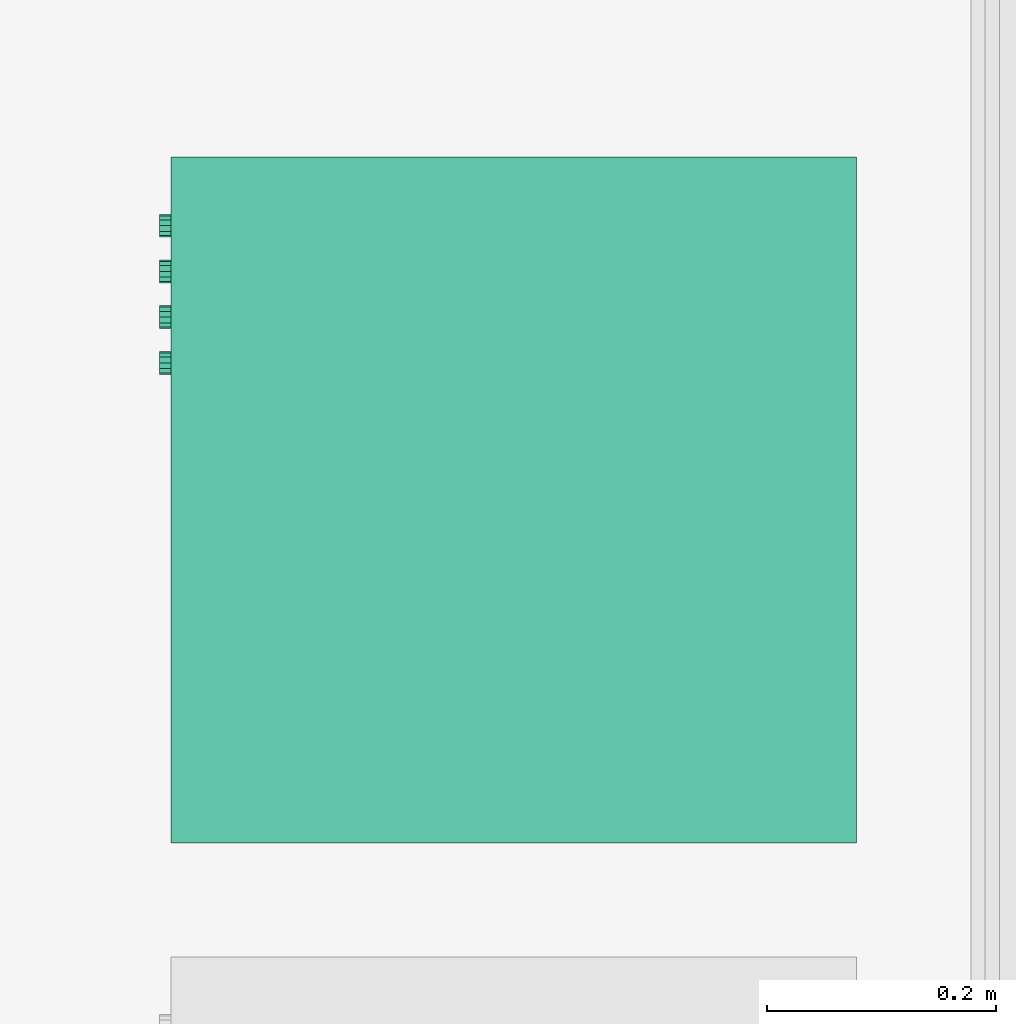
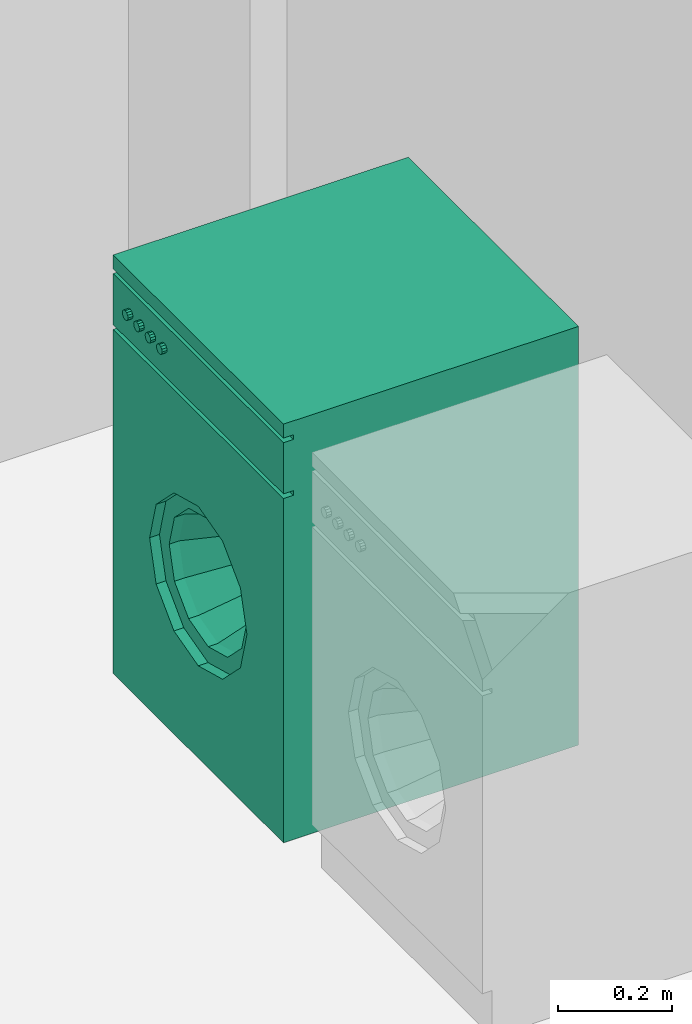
# One storey, part 97 of 109: 1 flow terminal.
"""IFC2X3 building model written with IfcOpenShell, lengths in millimetres."""

import ifcopenshell
import ifcopenshell.guid

model = None  # the IFC model being written
_history = None  # IfcOwnerHistory: only IFC2X3 demands one
_inside = {}  # id of a spatial element -> (the spatial element, [elements in it])
_under = {}  # id of a project, library or spatial element -> (it, [spatial elements below it])
_declared = {}  # id of a project -> (the project, [libraries it declares])
_typed = {}  # id of a type object -> (the type object, [elements of that type])
_made_of = {}  # id of a material, layer set ... -> (it, [elements and type objects made of it])


def new_model(schema):
    """Start an empty IFC model of exactly this schema.

    Asked for "IFC4X3", IfcOpenShell would pick the latest addendum, in which some entities
    have other attributes; the version numbers below select the first issue.
    IFC2X3 requires an IfcOwnerHistory on every rooted entity: one is made here for all.
    """
    global model, _history
    if schema == "IFC4X3":
        model = ifcopenshell.file(schema_version=(4, 3, 0, 0))
    else:
        model = ifcopenshell.file(schema=schema)
    _inside.clear()
    _under.clear()
    _declared.clear()
    _typed.clear()
    _made_of.clear()
    _history = None
    if model.schema == "IFC2X3":
        org = make("IfcOrganization", Name="unknown")
        user = make(
            "IfcPersonAndOrganization",
            ThePerson=make("IfcPerson", FamilyName="unknown"),
            TheOrganization=org,
        )
        app = make(
            "IfcApplication",
            ApplicationDeveloper=org,
            Version="unknown",
            ApplicationFullName="unknown",
            ApplicationIdentifier="unknown",
        )
        _history = make(
            "IfcOwnerHistory",
            OwningUser=user,
            OwningApplication=app,
            ChangeAction="ADDED",
            CreationDate=0,
        )
    return model


def make(cls, **values):
    """One entity of the class cls with the attributes given. An attribute that is None is left unset."""
    return model.create_entity(
        cls, **{name: value for name, value in values.items() if value is not None}
    )


def entity(cls, *values):
    """Any entity or typed value of the class cls, its attributes in the order of the schema. None: left unset."""
    e = model.create_entity(cls)
    for i, value in enumerate(values):
        if value is not None:
            e[i] = value
    return e


def rooted(cls, **values):
    """An entity with a GlobalId (a new one), such as an element, a storey or a relation."""
    return make(cls, GlobalId=ifcopenshell.guid.new(), OwnerHistory=_history, **values)


def si_unit(unit_type, name, prefix=None):
    """IfcSIUnit, for example si_unit("LENGTHUNIT", "METRE", prefix="MILLI")."""
    return make("IfcSIUnit", UnitType=unit_type, Prefix=prefix, Name=name)


def converted_unit(unit_type, name, factor, base, dimensions=None, offset=None):
    """IfcConversionBasedUnit, such as the inch: factor (a typed value) times the base unit."""
    return make(
        "IfcConversionBasedUnit"
        if offset is None
        else "IfcConversionBasedUnitWithOffset",
        ConversionOffset=offset,
        Dimensions=None
        if dimensions is None
        else entity("IfcDimensionalExponents", *dimensions),
        UnitType=unit_type,
        Name=name,
        ConversionFactor=make(
            "IfcMeasureWithUnit", ValueComponent=factor, UnitComponent=base
        ),
    )


def derived_unit(unit_type, elements):
    """IfcDerivedUnit: a product of units, each with its exponent."""
    return make(
        "IfcDerivedUnit",
        Elements=[
            make("IfcDerivedUnitElement", Unit=unit, Exponent=power)
            for unit, power in elements
        ],
        UnitType=unit_type,
    )


def money_unit(currency):
    """IfcMonetaryUnit."""
    return make("IfcMonetaryUnit", Currency=currency)


def assignment(units):
    """IfcUnitAssignment: the units of a project."""
    return None if units is None else make("IfcUnitAssignment", Units=units)


def point(xyz):
    """IfcCartesianPoint."""
    return None if xyz is None else make("IfcCartesianPoint", Coordinates=xyz)


def direction(xyz):
    """IfcDirection."""
    return None if xyz is None else make("IfcDirection", DirectionRatios=xyz)


def frame(location, z_axis=None, x_axis=None):
    """IfcAxis2Placement3D, a coordinate frame: its origin and axes. An axis left out is left unset."""
    return make(
        "IfcAxis2Placement3D",
        Location=point(location),
        Axis=direction(z_axis),
        RefDirection=direction(x_axis),
    )


def origin_with_axes():
    """The frame at (0, 0, 0) with the z axis (0, 0, 1) and the x axis (1, 0, 0) written out."""
    return frame((0.0, 0.0, 0.0), z_axis=(0.0, 0.0, 1.0), x_axis=(1.0, 0.0, 0.0))


def place(relative_to, where):
    """IfcLocalPlacement: puts the frame where relative to a parent placement (None: the world)."""
    return make(
        "IfcLocalPlacement", PlacementRelTo=relative_to, RelativePlacement=where
    )


def context(
    kind, dimensions, precision=None, world=None, true_north=None, identifier=None
):
    """IfcGeometricRepresentationContext, for example the 3D "Model" context."""
    return make(
        "IfcGeometricRepresentationContext",
        ContextIdentifier=identifier,
        ContextType=kind,
        CoordinateSpaceDimension=dimensions,
        Precision=precision,
        WorldCoordinateSystem=world,
        TrueNorth=true_north,
    )


def subcontext(parent, identifier, kind, view, scale=None):
    """IfcGeometricRepresentationSubContext, for example "Body" below "Model"."""
    return make(
        "IfcGeometricRepresentationSubContext",
        ContextIdentifier=identifier,
        ContextType=kind,
        ParentContext=parent,
        TargetScale=scale,
        TargetView=view,
    )


def project(units=None, contexts=None):
    """IfcProject with its units and contexts."""
    return rooted(
        "IfcProject",
        Name="project",
        RepresentationContexts=contexts,
        UnitsInContext=assignment(units),
    )


def spatial(cls, under=None, at=None, **own):
    """A site, building, storey or space (cls), placed at a placement, below another one or the project."""
    s = rooted(cls, ObjectPlacement=at, **own)
    if under is not None:
        _under.setdefault(under.id(), (under, []))[1].append(s)
    return s


def faces_of(points, faces, orient=None, outer=None):
    """IfcFace entities. A face is a list of loops; a loop is a list of indices into points, from 0.

    orient and outer hold one flag for each loop. By default every Orientation is true, the
    first loop of a face is its IfcFaceOuterBound and the others are IfcFaceBound.
    """
    made = []
    for i, loops in enumerate(faces):
        bounds = []
        for j, loop in enumerate(loops):
            is_outer = j == 0 if outer is None else outer[i][j]
            bounds.append(
                make(
                    "IfcFaceOuterBound" if is_outer else "IfcFaceBound",
                    Bound=make("IfcPolyLoop", Polygon=[points[k] for k in loop]),
                    Orientation=True if orient is None else orient[i][j],
                )
            )
        made.append(make("IfcFace", Bounds=bounds))
    return made


def open_shell(faces, orient=None, outer=None):
    """The faces of one IfcOpenShell. surface_model builds it on its shared points."""
    return ("IfcOpenShell", faces, orient, outer)


def faceted_brep(points, faces, orient=None, outer=None, voids=None):
    """IfcFacetedBrep: a solid bounded by flat faces; with voids (closed shells), ...WithVoids."""
    shared = [point(p) for p in points]
    hull = make("IfcClosedShell", CfsFaces=faces_of(shared, faces, orient, outer))
    if voids is None:
        return make("IfcFacetedBrep", Outer=hull)
    return make(
        "IfcFacetedBrepWithVoids",
        Outer=hull,
        Voids=[
            make(cls, CfsFaces=faces_of(shared, fs, o, b)) for cls, fs, o, b in voids
        ],
    )


def surface_model(cls, points, shells):
    """IfcFaceBasedSurfaceModel or IfcShellBasedSurfaceModel (cls): surfaces that need not close."""
    shared = [point(p) for p in points]
    made = [make(c, CfsFaces=faces_of(shared, fs, o, b)) for c, fs, o, b in shells]
    if cls == "IfcFaceBasedSurfaceModel":
        return make(cls, FbsmFaces=made)
    return make(cls, SbsmBoundary=made)


def shape(context_of_items, identifier, shape_type, items):
    """IfcShapeRepresentation: the items that make up one representation, for example the "Body"."""
    return make(
        "IfcShapeRepresentation",
        ContextOfItems=context_of_items,
        RepresentationIdentifier=identifier,
        RepresentationType=shape_type,
        Items=items,
    )


def made_of(thing, what):
    """Note that an element or type object is made of a material, layer set ...; save() writes the relation."""
    if what is not None:
        _made_of.setdefault(what.id(), (what, []))[1].append(thing)
    return thing


def type_object(cls, material=None, **own):
    """A type object (cls), such as IfcWallType, which elements share."""
    return made_of(rooted(cls, **own), material)


def element(
    cls,
    number,
    at=None,
    inside=None,
    cuts=None,
    type_object=None,
    material=None,
    context=None,
    identifier="Body",
    shape_type=None,
    held_by="IfcProductDefinitionShape",
    body=None,
    shapes=None,
    **own,
):
    """One element of the class cls, such as IfcWall. Its Tag is "e" and its number.

    at: its placement. inside: the storey or other place that contains it. cuts: it is an
    opening in that element (IfcRelVoidsElement). A single representation is given by context,
    identifier, shape_type and body (its items); several are given by shapes. held_by: the class
    of the entity that holds the representations. save() writes the other relations.
    """
    e = rooted(cls, Tag="e%d" % number, ObjectPlacement=at, **own)
    if body is not None:
        shapes = [shape(context, identifier, shape_type, body)]
    if shapes is not None:
        e.Representation = make(held_by, Representations=shapes)
    if inside is not None:
        _inside.setdefault(inside.id(), (inside, []))[1].append(e)
    if cuts is not None:
        rooted(
            "IfcRelVoidsElement", RelatingBuildingElement=cuts, RelatedOpeningElement=e
        )
    if type_object is not None:
        _typed.setdefault(type_object.id(), (type_object, []))[1].append(e)
    return made_of(e, material)


def aggregate(whole, parts):
    """IfcRelAggregates: a whole, such as a stair, and the parts it consists of."""
    return rooted("IfcRelAggregates", RelatingObject=whole, RelatedObjects=parts)


def save(model, path):
    """Write the relations noted so far, then the file.

    IfcRelAggregates (storeys below a building ...), IfcRelContainedInSpatialStructure (elements
    in a storey), IfcRelDefinesByType, IfcRelAssociatesMaterial and IfcRelDeclares: one each for
    every whole, place, type object, material and project.
    """
    for whole, parts in _under.values():
        aggregate(whole, parts)
    for where, things in _inside.values():
        rooted(
            "IfcRelContainedInSpatialStructure",
            RelatedElements=things,
            RelatingStructure=where,
        )
    for kind, things in _typed.values():
        rooted("IfcRelDefinesByType", RelatedObjects=things, RelatingType=kind)
    for what, things in _made_of.values():
        rooted("IfcRelAssociatesMaterial", RelatedObjects=things, RelatingMaterial=what)
    for by, libraries in _declared.values():
        rooted("IfcRelDeclares", RelatingContext=by, RelatedDefinitions=libraries)
    model.write(path)


model = new_model("IFC2X3")

# Units and contexts
model_context = context("Model", 3, precision=0.01, world=origin_with_axes(), true_north=direction((0.0, 1.0)))
body_context = subcontext(model_context, "Body", "Model", "MODEL_VIEW")
ifc_project = project(units=[si_unit("LENGTHUNIT", "METRE", prefix="MILLI"), si_unit("AREAUNIT", "SQUARE_METRE"), si_unit("VOLUMEUNIT", "CUBIC_METRE"), converted_unit("PLANEANGLEUNIT", "DEGREE", entity("IfcPlaneAngleMeasure", 0.0174532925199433), si_unit("PLANEANGLEUNIT", "RADIAN"), dimensions=[0, 0, 0, 0, 0, 0, 0]), money_unit("EUR"), converted_unit("TIMEUNIT", "Year", entity("IfcTimeMeasure", 31557600.0), si_unit("TIMEUNIT", "SECOND"), dimensions=[0, 0, 1, 0, 0, 0, 0]), si_unit("MASSUNIT", "GRAM", prefix="KILO"), si_unit("THERMODYNAMICTEMPERATUREUNIT", "DEGREE_CELSIUS"), si_unit("LUMINOUSINTENSITYUNIT", "LUMEN"), si_unit("ENERGYUNIT", "JOULE", prefix="MEGA"), derived_unit("THERMALCONDUCTANCEUNIT", [(si_unit("POWERUNIT", "WATT"), 1), (si_unit("LENGTHUNIT", "METRE"), -1), (si_unit("THERMODYNAMICTEMPERATUREUNIT", "KELVIN"), -1)]), derived_unit("SPECIFICHEATCAPACITYUNIT", [(si_unit("ENERGYUNIT", "JOULE"), 1), (si_unit("MASSUNIT", "GRAM", prefix="KILO"), -1), (si_unit("THERMODYNAMICTEMPERATUREUNIT", "KELVIN"), -1)]), derived_unit("MASSDENSITYUNIT", [(si_unit("MASSUNIT", "GRAM", prefix="KILO"), 1), (si_unit("VOLUMEUNIT", "CUBIC_METRE"), -1)])], contexts=[model_context])

# Site, building, storey
site_placement = place(None, origin_with_axes())
site = spatial("IfcSite", under=ifc_project, at=site_placement, Name="<site naam>", CompositionType="ELEMENT")
building_placement = place(site_placement, origin_with_axes())
building = spatial("IfcBuilding", under=site, at=building_placement, Name="<Naam gebouw>", CompositionType="ELEMENT")
storey_placement = place(building_placement, origin_with_axes())
storey = spatial("IfcBuildingStorey", under=building, at=storey_placement, Name="00 Begane grond", CompositionType="ELEMENT", Elevation=0.0)

# Flow terminal
sanitary_terminal_type = type_object("IfcSanitaryTerminalType", Name="Droger 27", PredefinedType="NOTDEFINED")
flow_terminal_placement = place(storey_placement, frame((19200.00837239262, 18849.99999999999, 300.0), z_axis=(0.0, 0.0, 1.0), x_axis=(0.0, -1.0, 0.0)))
element("IfcFlowTerminal", 1, at=flow_terminal_placement, inside=storey, type_object=sanitary_terminal_type, Name="74_Wasmachine_Lege", ObjectType="Sanitary Terminal", context=body_context, shape_type="SurfaceModel", body=[
    faceted_brep([(0.0, 20.00000000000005, 0.0), (600.0, 20.00000000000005, 0.0), (600.0, 0.0, 0.0), (0.0, 0.0, 0.0), (0.0, 20.00000000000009, 740.0000000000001), (600.0, 20.00000000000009, 740.0000000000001), (471.4285714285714, 20.00000000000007, 370.0000000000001), (448.4614977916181, 20.00000000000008, 455.7142857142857), (385.7142857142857, 20.00000000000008, 518.4614977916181), (300.0000000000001, 20.00000000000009, 541.4285714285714), (214.2857142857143, 20.00000000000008, 518.4614977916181), (151.538502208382, 20.00000000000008, 455.7142857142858), (128.5714285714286, 20.00000000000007, 370.0000000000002), (151.5385022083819, 20.00000000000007, 284.2857142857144), (214.2857142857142, 20.00000000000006, 221.5385022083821), (299.9999999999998, 20.00000000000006, 198.5714285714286), (385.7142857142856, 20.00000000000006, 221.5385022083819), (448.4614977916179, 20.00000000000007, 284.2857142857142), (600.0, 0.0, 740.0000000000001), (0.0, 0.0, 740.0000000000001), (471.4285714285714, 0.0, 370.0000000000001), (448.4614977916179, 0.0, 284.2857142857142), (385.7142857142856, 0.0, 221.5385022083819), (299.9999999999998, 0.0, 198.5714285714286), (214.2857142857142, 0.0, 221.5385022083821), (151.5385022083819, 0.0, 284.2857142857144), (128.5714285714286, 0.0, 370.0000000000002), (151.538502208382, 0.0, 455.7142857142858), (214.2857142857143, 0.0, 518.4614977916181), (300.0000000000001, 0.0, 541.4285714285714), (385.7142857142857, 0.0, 518.4614977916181), (448.4614977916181, 0.0, 455.7142857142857)], [[[0, 1, 2, 3]], [[0, 4, 5, 1], [6, 7, 8, 9, 10, 11, 12, 13, 14, 15, 16, 17]], [[1, 5, 18, 2]], [[3, 2, 18, 19], [20, 21, 22, 23, 24, 25, 26, 27, 28, 29, 30, 31]], [[4, 0, 3, 19]], [[5, 4, 19, 18]], [[7, 6, 20, 31]], [[8, 7, 31, 30]], [[9, 8, 30, 29]], [[10, 9, 29, 28]], [[11, 10, 28, 27]], [[12, 11, 27, 26]], [[13, 12, 26, 25]], [[14, 13, 25, 24]], [[15, 14, 24, 23]], [[16, 15, 23, 22]], [[17, 16, 22, 21]], [[6, 17, 21, 20]]]),
    faceted_brep([(471.4285714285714, 40.00000000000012, 370.0000000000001), (448.4614977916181, 40.00000000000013, 455.7142857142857), (448.4614977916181, 20.00000000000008, 455.7142857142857), (471.4285714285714, 20.00000000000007, 370.0000000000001), (448.4614977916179, 40.00000000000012, 284.2857142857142), (385.7142857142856, 40.00000000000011, 221.5385022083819), (299.9999999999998, 40.00000000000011, 198.5714285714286), (214.2857142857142, 40.00000000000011, 221.5385022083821), (151.5385022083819, 40.00000000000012, 284.2857142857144), (128.5714285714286, 40.00000000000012, 370.0000000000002), (151.538502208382, 40.00000000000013, 455.7142857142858), (214.2857142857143, 40.00000000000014, 518.4614977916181), (300.0000000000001, 40.00000000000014, 541.4285714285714), (385.7142857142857, 40.00000000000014, 518.4614977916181), (437.1428571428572, 40.00000000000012, 370.0000000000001), (418.7691982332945, 40.00000000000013, 438.5714285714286), (368.5714285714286, 40.00000000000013, 488.7691982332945), (300.0000000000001, 40.00000000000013, 507.1428571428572), (231.4285714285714, 40.00000000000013, 488.7691982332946), (181.2308017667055, 40.00000000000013, 438.5714285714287), (162.8571428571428, 40.00000000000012, 370.0000000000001), (181.2308017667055, 40.00000000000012, 301.4285714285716), (231.4285714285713, 40.00000000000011, 251.2308017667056), (299.9999999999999, 40.00000000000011, 232.8571428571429), (368.5714285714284, 40.00000000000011, 251.2308017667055), (418.7691982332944, 40.00000000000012, 301.4285714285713), (385.7142857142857, 20.00000000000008, 518.4614977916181), (300.0000000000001, 20.00000000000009, 541.4285714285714), (214.2857142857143, 20.00000000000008, 518.4614977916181), (151.538502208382, 20.00000000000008, 455.7142857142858), (128.5714285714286, 20.00000000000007, 370.0000000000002), (151.5385022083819, 20.00000000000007, 284.2857142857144), (214.2857142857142, 20.00000000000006, 221.5385022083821), (299.9999999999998, 20.00000000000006, 198.5714285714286), (385.7142857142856, 20.00000000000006, 221.5385022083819), (448.4614977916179, 20.00000000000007, 284.2857142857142), (437.1428571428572, 20.00000000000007, 370.0000000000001), (418.7691982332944, 20.00000000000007, 301.4285714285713), (368.5714285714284, 20.00000000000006, 251.2308017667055), (299.9999999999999, 20.00000000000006, 232.8571428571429), (231.4285714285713, 20.00000000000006, 251.2308017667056), (181.2308017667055, 20.00000000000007, 301.4285714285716), (162.8571428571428, 20.00000000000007, 370.0000000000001), (181.2308017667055, 20.00000000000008, 438.5714285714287), (231.4285714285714, 20.00000000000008, 488.7691982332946), (300.0000000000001, 20.00000000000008, 507.1428571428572), (368.5714285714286, 20.00000000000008, 488.7691982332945), (418.7691982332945, 20.00000000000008, 438.5714285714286)], [[[0, 1, 2, 3]], [[0, 4, 5, 6, 7, 8, 9, 10, 11, 12, 13, 1], [14, 15, 16, 17, 18, 19, 20, 21, 22, 23, 24, 25]], [[1, 13, 26, 2]], [[3, 2, 26, 27, 28, 29, 30, 31, 32, 33, 34, 35], [36, 37, 38, 39, 40, 41, 42, 43, 44, 45, 46, 47]], [[4, 0, 3, 35]], [[5, 4, 35, 34]], [[6, 5, 34, 33]], [[7, 6, 33, 32]], [[8, 7, 32, 31]], [[9, 8, 31, 30]], [[10, 9, 30, 29]], [[11, 10, 29, 28]], [[12, 11, 28, 27]], [[13, 12, 27, 26]], [[15, 14, 36, 47]], [[16, 15, 47, 46]], [[17, 16, 46, 45]], [[18, 17, 45, 44]], [[19, 18, 44, 43]], [[20, 19, 43, 42]], [[21, 20, 42, 41]], [[22, 21, 41, 40]], [[23, 22, 40, 39]], [[24, 23, 39, 38]], [[25, 24, 38, 37]], [[14, 25, 37, 36]]]),
    surface_model("IfcShellBasedSurfaceModel", [(231.4285714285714, 40.00000000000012, 488.7691982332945), (300.0, 40.00000000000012, 507.1428571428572), (300.0, 140.0000000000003, 472.8571428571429), (248.5714285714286, 140.0000000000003, 459.0768986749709), (368.5714285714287, 40.00000000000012, 488.7691982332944), (351.4285714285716, 140.0000000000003, 459.0768986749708), (389.0768986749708, 140.0000000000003, 421.4285714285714), (402.8571428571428, 140.0000000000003, 369.9999999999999), (389.0768986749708, 140.0000000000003, 318.5714285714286), (351.4285714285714, 140.0000000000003, 280.9231013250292), (299.9999999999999, 140.0000000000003, 267.1428571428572), (248.5714285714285, 140.0000000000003, 280.9231013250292), (210.9231013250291, 140.0000000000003, 318.5714285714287), (197.1428571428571, 140.0000000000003, 370.0000000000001), (210.9231013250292, 140.0000000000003, 421.4285714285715), (181.2308017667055, 40.00000000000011, 438.5714285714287), (418.7691982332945, 40.00000000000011, 438.5714285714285), (437.1428571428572, 40.00000000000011, 369.9999999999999), (418.7691982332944, 40.00000000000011, 301.4285714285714), (368.5714285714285, 40.00000000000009, 251.2308017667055), (299.9999999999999, 40.00000000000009, 232.8571428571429), (231.4285714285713, 40.00000000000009, 251.2308017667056), (181.2308017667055, 40.00000000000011, 301.4285714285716), (162.8571428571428, 40.00000000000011, 370.0000000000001)], [open_shell([[[0, 1, 2, 3]], [[1, 4, 5, 2]], [[2, 5, 6, 7, 8, 9, 10, 11, 12, 13, 14, 3]], [[15, 0, 3, 14]], [[4, 16, 6, 5]], [[16, 17, 7, 6]], [[17, 18, 8, 7]], [[18, 19, 9, 8]], [[19, 20, 10, 9]], [[20, 21, 11, 10]], [[21, 22, 12, 11]], [[22, 23, 13, 12]], [[23, 15, 14, 13]]])]),
    surface_model("IfcShellBasedSurfaceModel", [(0.0, 20.00000000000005, 0.0), (0.0, 20.0000000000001, 870.0000000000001), (0.0, 600.0000000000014, 870.0000000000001), (0.0, 600.0000000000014, 0.0)], [open_shell([[[0, 1, 2, 3]]])]),
    surface_model("IfcShellBasedSurfaceModel", [(600.0, 20.00000000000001, 0.0), (600.0, 20.00000000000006, 870.0000000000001), (600.0, 600.0000000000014, 870.0000000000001), (600.0, 600.0000000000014, 0.0)], [open_shell([[[0, 1, 2, 3]]])]),
    surface_model("IfcShellBasedSurfaceModel", [(0.0, 600.0000000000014, 0.0), (0.0, 600.0000000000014, 870.0000000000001), (600.0, 600.0000000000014, 870.0000000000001), (600.0, 600.0000000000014, 0.0)], [open_shell([[[0, 1, 2, 3]]])]),
    surface_model("IfcShellBasedSurfaceModel", [(0.0, 600.0000000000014, 0.0), (0.0, 20.00000000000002, 0.0), (600.0, 20.00000000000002, 0.0), (600.0, 600.0000000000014, 0.0)], [open_shell([[[0, 1, 2, 3]]])]),
    faceted_brep([(0.0, 20.00000000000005, 750.0000000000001), (600.0, 20.00000000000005, 750.0000000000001), (600.0, 0.0, 750.0000000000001), (0.0, 0.0, 750.0000000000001), (0.0, 20.00000000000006, 860.0000000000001), (600.0, 20.00000000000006, 860.0000000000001), (600.0, 0.0, 860.0000000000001), (0.0, 0.0, 860.0000000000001)], [[[0, 1, 2, 3]], [[0, 4, 5, 1]], [[1, 5, 6, 2]], [[3, 2, 6, 7]], [[4, 0, 3, 7]], [[5, 4, 7, 6]]]),
    surface_model("IfcShellBasedSurfaceModel", [(0.0, 20.00000000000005, 740.0000000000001), (0.0, 20.00000000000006, 870.0000000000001), (600.0, 20.00000000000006, 870.0000000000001), (600.0, 20.00000000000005, 740.0000000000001)], [open_shell([[[0, 1, 2, 3]]])]),
    faceted_brep([(0.0, 0.0, 870.0000000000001), (600.0, 0.0, 870.0000000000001), (600.0, 0.0, 900.0000000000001), (0.0, 0.0, 900.0000000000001), (0.0, 600.0000000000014, 870.0000000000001), (600.0, 600.0000000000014, 870.0000000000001), (600.0, 600.0000000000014, 900.0000000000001), (0.0, 600.0000000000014, 900.0000000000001)], [[[0, 1, 2, 3]], [[0, 4, 5, 1]], [[1, 5, 6, 2]], [[3, 2, 6, 7]], [[4, 0, 3, 7]], [[5, 4, 7, 6]]]),
    faceted_brep([(68.66025403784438, 0.0, 805.0), (64.99999999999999, 0.0, 801.3397459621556), (59.99999999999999, 0.0, 800.0), (54.99999999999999, 0.0, 801.3397459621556), (51.33974596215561, 0.0, 805.0), (49.99999999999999, 0.0, 810.0), (51.33974596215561, 0.0, 815.0000000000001), (55.0, 0.0, 818.6602540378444), (60.0, 0.0, 820.0000000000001), (65.0, 0.0, 818.6602540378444), (68.66025403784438, 0.0, 815.0000000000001), (69.99999999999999, 0.0, 810.0), (68.66025403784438, -10.00000000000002, 805.0), (64.99999999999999, -10.00000000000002, 801.3397459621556), (59.99999999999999, -10.00000000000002, 800.0), (54.99999999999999, -10.00000000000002, 801.3397459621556), (51.33974596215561, -10.00000000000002, 805.0), (49.99999999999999, -10.00000000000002, 810.0), (51.33974596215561, -10.00000000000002, 815.0000000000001), (55.0, -10.00000000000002, 818.6602540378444), (60.0, -10.00000000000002, 820.0000000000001), (65.0, -10.00000000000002, 818.6602540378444), (68.66025403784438, -10.00000000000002, 815.0000000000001), (69.99999999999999, -10.00000000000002, 810.0)], [[[0, 1, 2, 3, 4, 5, 6, 7, 8, 9, 10, 11]], [[1, 0, 12, 13]], [[2, 1, 13, 14]], [[3, 2, 14, 15]], [[4, 3, 15, 16]], [[5, 4, 16, 17]], [[6, 5, 17, 18]], [[7, 6, 18, 19]], [[8, 7, 19, 20]], [[9, 8, 20, 21]], [[10, 9, 21, 22]], [[11, 10, 22, 23]], [[0, 11, 23, 12]], [[12, 23, 22, 21, 20, 19, 18, 17, 16, 15, 14, 13]]]),
    faceted_brep([(108.6602540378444, 0.0, 805.0), (105.0, 0.0, 801.3397459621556), (99.99999999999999, 0.0, 800.0), (95.0, 0.0, 801.3397459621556), (91.33974596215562, 0.0, 805.0), (90.00000000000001, 0.0, 810.0), (91.33974596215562, 0.0, 815.0000000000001), (95.0, 0.0, 818.6602540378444), (100.0, 0.0, 820.0000000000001), (105.0, 0.0, 818.6602540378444), (108.6602540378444, 0.0, 815.0000000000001), (110.0, 0.0, 810.0), (108.6602540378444, -10.00000000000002, 805.0), (105.0, -10.00000000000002, 801.3397459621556), (99.99999999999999, -10.00000000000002, 800.0), (95.0, -10.00000000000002, 801.3397459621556), (91.33974596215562, -10.00000000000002, 805.0), (90.00000000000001, -10.00000000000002, 810.0), (91.33974596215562, -10.00000000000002, 815.0000000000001), (95.0, -10.00000000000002, 818.6602540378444), (100.0, -10.00000000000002, 820.0000000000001), (105.0, -10.00000000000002, 818.6602540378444), (108.6602540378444, -10.00000000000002, 815.0000000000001), (110.0, -10.00000000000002, 810.0)], [[[0, 1, 2, 3, 4, 5, 6, 7, 8, 9, 10, 11]], [[1, 0, 12, 13]], [[2, 1, 13, 14]], [[3, 2, 14, 15]], [[4, 3, 15, 16]], [[5, 4, 16, 17]], [[6, 5, 17, 18]], [[7, 6, 18, 19]], [[8, 7, 19, 20]], [[9, 8, 20, 21]], [[10, 9, 21, 22]], [[11, 10, 22, 23]], [[0, 11, 23, 12]], [[12, 23, 22, 21, 20, 19, 18, 17, 16, 15, 14, 13]]]),
    faceted_brep([(148.6602540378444, 0.0, 805.0), (145.0, 0.0, 801.3397459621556), (140.0, 0.0, 800.0), (135.0, 0.0, 801.3397459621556), (131.3397459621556, 0.0, 805.0), (130.0, 0.0, 810.0), (131.3397459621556, 0.0, 815.0000000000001), (135.0, 0.0, 818.6602540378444), (140.0, 0.0, 820.0000000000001), (145.0, 0.0, 818.6602540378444), (148.6602540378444, 0.0, 815.0000000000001), (150.0, 0.0, 810.0), (148.6602540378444, -10.00000000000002, 805.0), (145.0, -10.00000000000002, 801.3397459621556), (140.0, -10.00000000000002, 800.0), (135.0, -10.00000000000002, 801.3397459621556), (131.3397459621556, -10.00000000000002, 805.0), (130.0, -10.00000000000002, 810.0), (131.3397459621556, -10.00000000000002, 815.0000000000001), (135.0, -10.00000000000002, 818.6602540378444), (140.0, -10.00000000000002, 820.0000000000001), (145.0, -10.00000000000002, 818.6602540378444), (148.6602540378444, -10.00000000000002, 815.0000000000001), (150.0, -10.00000000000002, 810.0)], [[[0, 1, 2, 3, 4, 5, 6, 7, 8, 9, 10, 11]], [[1, 0, 12, 13]], [[2, 1, 13, 14]], [[3, 2, 14, 15]], [[4, 3, 15, 16]], [[5, 4, 16, 17]], [[6, 5, 17, 18]], [[7, 6, 18, 19]], [[8, 7, 19, 20]], [[9, 8, 20, 21]], [[10, 9, 21, 22]], [[11, 10, 22, 23]], [[0, 11, 23, 12]], [[12, 23, 22, 21, 20, 19, 18, 17, 16, 15, 14, 13]]]),
    faceted_brep([(188.6602540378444, 0.0, 805.0), (185.0, 0.0, 801.3397459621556), (180.0, 0.0, 800.0), (175.0, 0.0, 801.3397459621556), (171.3397459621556, 0.0, 805.0), (170.0, 0.0, 810.0), (171.3397459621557, 0.0, 815.0000000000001), (175.0, 0.0, 818.6602540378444), (180.0, 0.0, 820.0000000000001), (185.0, 0.0, 818.6602540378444), (188.6602540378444, 0.0, 815.0000000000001), (190.0, 0.0, 810.0), (188.6602540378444, -10.00000000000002, 805.0), (185.0, -10.00000000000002, 801.3397459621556), (180.0, -10.00000000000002, 800.0), (175.0, -10.00000000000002, 801.3397459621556), (171.3397459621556, -10.00000000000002, 805.0), (170.0, -10.00000000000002, 810.0), (171.3397459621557, -10.00000000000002, 815.0000000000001), (175.0, -10.00000000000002, 818.6602540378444), (180.0, -10.00000000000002, 820.0000000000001), (185.0, -10.00000000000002, 818.6602540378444), (188.6602540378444, -10.00000000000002, 815.0000000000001), (190.0, -10.00000000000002, 810.0)], [[[0, 1, 2, 3, 4, 5, 6, 7, 8, 9, 10, 11]], [[1, 0, 12, 13]], [[2, 1, 13, 14]], [[3, 2, 14, 15]], [[4, 3, 15, 16]], [[5, 4, 16, 17]], [[6, 5, 17, 18]], [[7, 6, 18, 19]], [[8, 7, 19, 20]], [[9, 8, 20, 21]], [[10, 9, 21, 22]], [[11, 10, 22, 23]], [[0, 11, 23, 12]], [[12, 23, 22, 21, 20, 19, 18, 17, 16, 15, 14, 13]]]),
])

save(model, "model.ifc")
